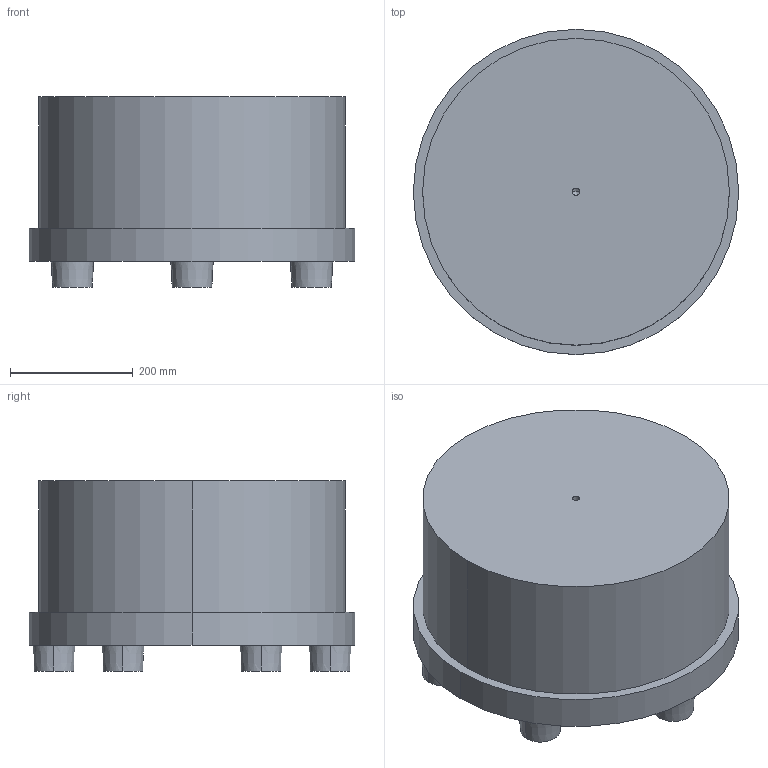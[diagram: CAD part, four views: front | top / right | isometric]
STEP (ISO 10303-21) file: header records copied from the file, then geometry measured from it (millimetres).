
FILE_DESCRIPTION (( 'STEP AP214' ), '1' );
FILE_NAME ('WIBOSCVB550 Napêd wibracyjny cylindryczny.STEP', '2025-06-03T12:43:41', ( '' ), ( '' ), 'SwSTEP 2.0', 'SolidWorks 2024', '' );
FILE_SCHEMA (( 'AUTOMOTIVE_DESIGN' ));
Length unit declared in the file: millimetre
Products named in the file (1): WIBOSCVB550 Napęd wibracyjny cylindryczny
Bounding box: 530 x 530 x 310 mm (x, y, z)
Volume: 54801709 mm3; surface area: 918851.5 mm2
Topology: 1 solids, 1 shells, 29 faces, 58 edges, 37 vertices
Faces by surface type: cone 14, plane 9, cylinder 6
Entity records: 781 total; most frequent: DIRECTION 152, CARTESIAN_POINT 123, ORIENTED_EDGE 112, AXIS2_PLACEMENT_3D 66, EDGE_CURVE 56, VERTEX_POINT 37, EDGE_LOOP 37, CIRCLE 36
